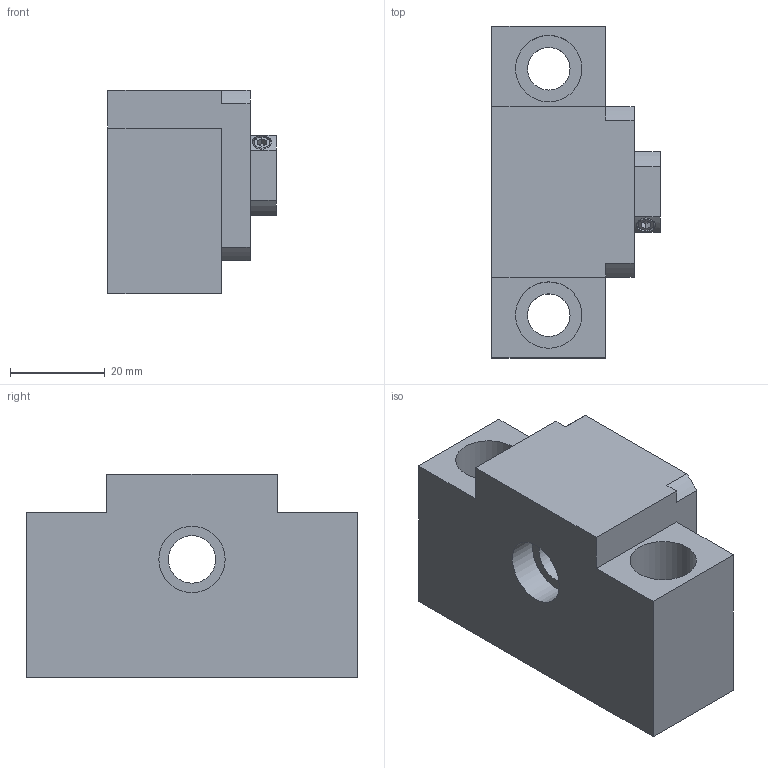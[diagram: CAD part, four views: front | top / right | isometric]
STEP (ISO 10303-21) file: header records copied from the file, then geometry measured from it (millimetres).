
FILE_DESCRIPTION((''),'2;1');
FILE_NAME('D:\製品 (図面)\カタログ用3D\ネジ関連\STEP形式\SUH\SUH10.stp','2010-06-02T14:50:15',('Tsuchiya'),(''),'Autodesk Inventor 10','Autodesk Inventor 10','');
FILE_SCHEMA(('AUTOMOTIVE_DESIGN { 1 0 10303 214 1 1 1 1 }'));
Length unit declared in the file: millimetre
Products named in the file (1): SUH10
Bounding box: 35.5 x 70 x 43 mm (x, y, z)
Volume: 64551 mm3; surface area: 16618.9 mm2
Topology: 1 solids, 1 shells, 100 faces, 227 edges, 150 vertices
Faces by surface type: plane 63, cylinder 18, bspline 14, torus 4, cone 1
Full cylindrical faces by diameter (mm): 4 x1, 7 x4, 10 x1, 14 x1, 14.5 x1, 16 x1, 21 x1
Entity records: 2875 total; most frequent: CARTESIAN_POINT 669, DIRECTION 432, ORIENTED_EDGE 408, EDGE_CURVE 204, VERTEX_POINT 150, EDGE_LOOP 150, VECTOR 146, LINE 146
